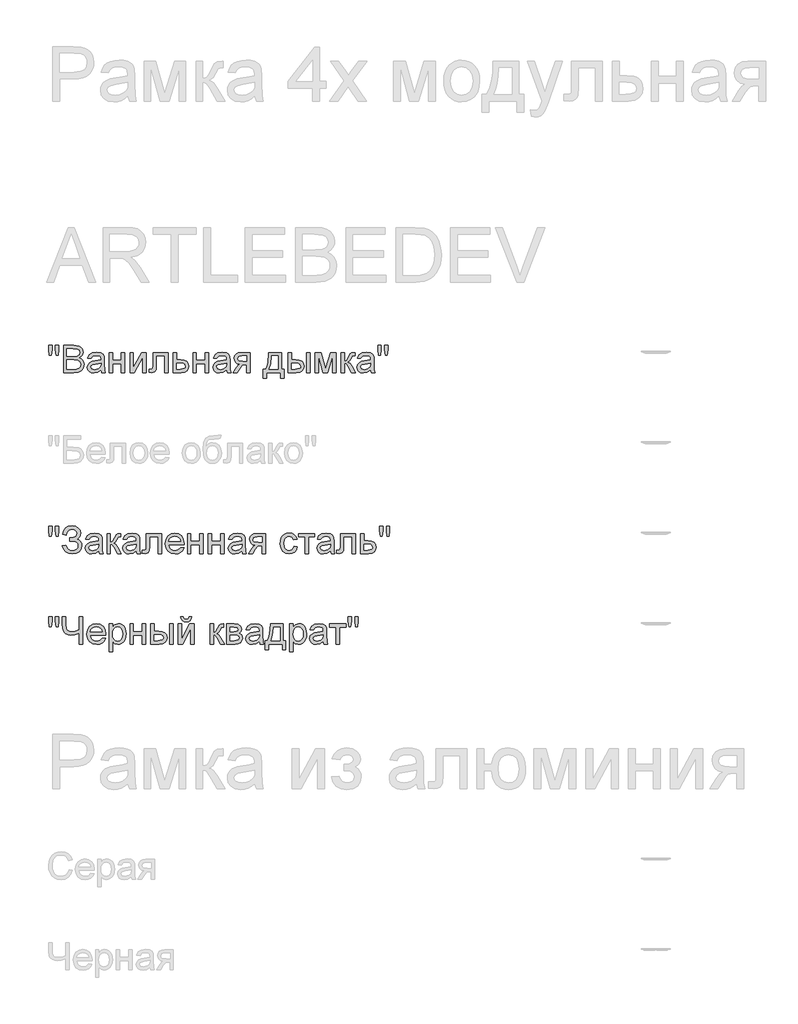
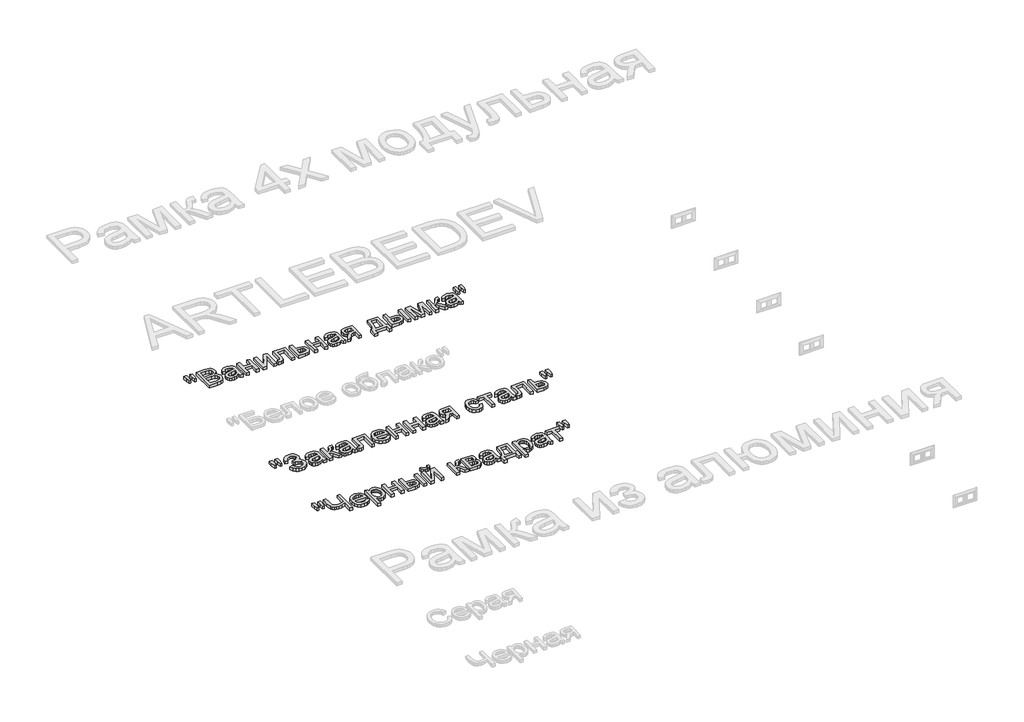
# One storey, part 119 of 168: 3 proxies.
"""IFC4 building model written with IfcOpenShell, lengths in millimetres."""

import ifcopenshell
import ifcopenshell.guid

model = None  # the IFC model being written
_history = None  # IfcOwnerHistory: only IFC2X3 demands one
_inside = {}  # id of a spatial element -> (the spatial element, [elements in it])
_under = {}  # id of a project, library or spatial element -> (it, [spatial elements below it])
_declared = {}  # id of a project -> (the project, [libraries it declares])
_typed = {}  # id of a type object -> (the type object, [elements of that type])
_made_of = {}  # id of a material, layer set ... -> (it, [elements and type objects made of it])


def new_model(schema):
    """Start an empty IFC model of exactly this schema.

    Asked for "IFC4X3", IfcOpenShell would pick the latest addendum, in which some entities
    have other attributes; the version numbers below select the first issue.
    IFC2X3 requires an IfcOwnerHistory on every rooted entity: one is made here for all.
    """
    global model, _history
    if schema == "IFC4X3":
        model = ifcopenshell.file(schema_version=(4, 3, 0, 0))
    else:
        model = ifcopenshell.file(schema=schema)
    _inside.clear()
    _under.clear()
    _declared.clear()
    _typed.clear()
    _made_of.clear()
    _history = None
    if model.schema == "IFC2X3":
        org = make("IfcOrganization", Name="unknown")
        user = make(
            "IfcPersonAndOrganization",
            ThePerson=make("IfcPerson", FamilyName="unknown"),
            TheOrganization=org,
        )
        app = make(
            "IfcApplication",
            ApplicationDeveloper=org,
            Version="unknown",
            ApplicationFullName="unknown",
            ApplicationIdentifier="unknown",
        )
        _history = make(
            "IfcOwnerHistory",
            OwningUser=user,
            OwningApplication=app,
            ChangeAction="ADDED",
            CreationDate=0,
        )
    return model


def make(cls, **values):
    """One entity of the class cls with the attributes given. An attribute that is None is left unset."""
    return model.create_entity(
        cls, **{name: value for name, value in values.items() if value is not None}
    )


def rooted(cls, **values):
    """An entity with a GlobalId (a new one), such as an element, a storey or a relation."""
    return make(cls, GlobalId=ifcopenshell.guid.new(), OwnerHistory=_history, **values)


def si_unit(unit_type, name, prefix=None):
    """IfcSIUnit, for example si_unit("LENGTHUNIT", "METRE", prefix="MILLI")."""
    return make("IfcSIUnit", UnitType=unit_type, Prefix=prefix, Name=name)


def assignment(units):
    """IfcUnitAssignment: the units of a project."""
    return None if units is None else make("IfcUnitAssignment", Units=units)


def point(xyz):
    """IfcCartesianPoint."""
    return None if xyz is None else make("IfcCartesianPoint", Coordinates=xyz)


def direction(xyz):
    """IfcDirection."""
    return None if xyz is None else make("IfcDirection", DirectionRatios=xyz)


def frame(location, z_axis=None, x_axis=None):
    """IfcAxis2Placement3D, a coordinate frame: its origin and axes. An axis left out is left unset."""
    return make(
        "IfcAxis2Placement3D",
        Location=point(location),
        Axis=direction(z_axis),
        RefDirection=direction(x_axis),
    )


def origin():
    """The frame at (0, 0, 0) with its axes left unset."""
    return frame((0.0, 0.0, 0.0))


def origin_with_axes():
    """The frame at (0, 0, 0) with the z axis (0, 0, 1) and the x axis (1, 0, 0) written out."""
    return frame((0.0, 0.0, 0.0), z_axis=(0.0, 0.0, 1.0), x_axis=(1.0, 0.0, 0.0))


def place(relative_to, where):
    """IfcLocalPlacement: puts the frame where relative to a parent placement (None: the world)."""
    return make(
        "IfcLocalPlacement", PlacementRelTo=relative_to, RelativePlacement=where
    )


def context(
    kind, dimensions, precision=None, world=None, true_north=None, identifier=None
):
    """IfcGeometricRepresentationContext, for example the 3D "Model" context."""
    return make(
        "IfcGeometricRepresentationContext",
        ContextIdentifier=identifier,
        ContextType=kind,
        CoordinateSpaceDimension=dimensions,
        Precision=precision,
        WorldCoordinateSystem=world,
        TrueNorth=true_north,
    )


def project(units=None, contexts=None):
    """IfcProject with its units and contexts."""
    return rooted(
        "IfcProject",
        Name="project",
        RepresentationContexts=contexts,
        UnitsInContext=assignment(units),
    )


def spatial(cls, under=None, at=None, **own):
    """A site, building, storey or space (cls), placed at a placement, below another one or the project."""
    s = rooted(cls, ObjectPlacement=at, **own)
    if under is not None:
        _under.setdefault(under.id(), (under, []))[1].append(s)
    return s


def polyline(points):
    """IfcPolyline through the points."""
    return make("IfcPolyline", Points=[point(p) for p in points])


def outline(outer, holes=None, kind="AREA"):
    """IfcArbitraryClosedProfileDef: a profile drawn as a closed curve; with holes, ...WithVoids."""
    if holes is None:
        return make("IfcArbitraryClosedProfileDef", ProfileType=kind, OuterCurve=outer)
    return make(
        "IfcArbitraryProfileDefWithVoids",
        ProfileType=kind,
        OuterCurve=outer,
        InnerCurves=holes,
    )


def extrude(swept, where, along, depth):
    """IfcExtrudedAreaSolid: the profile swept, set in the frame where, extruded along a direction by depth."""
    return make(
        "IfcExtrudedAreaSolid",
        SweptArea=swept,
        Position=where,
        ExtrudedDirection=direction(along),
        Depth=depth,
    )


def shape(context_of_items, identifier, shape_type, items):
    """IfcShapeRepresentation: the items that make up one representation, for example the "Body"."""
    return make(
        "IfcShapeRepresentation",
        ContextOfItems=context_of_items,
        RepresentationIdentifier=identifier,
        RepresentationType=shape_type,
        Items=items,
    )


def made_of(thing, what):
    """Note that an element or type object is made of a material, layer set ...; save() writes the relation."""
    if what is not None:
        _made_of.setdefault(what.id(), (what, []))[1].append(thing)
    return thing


def element(
    cls,
    number,
    at=None,
    inside=None,
    cuts=None,
    type_object=None,
    material=None,
    context=None,
    identifier="Body",
    shape_type=None,
    held_by="IfcProductDefinitionShape",
    body=None,
    shapes=None,
    **own,
):
    """One element of the class cls, such as IfcWall. Its Tag is "e" and its number.

    at: its placement. inside: the storey or other place that contains it. cuts: it is an
    opening in that element (IfcRelVoidsElement). A single representation is given by context,
    identifier, shape_type and body (its items); several are given by shapes. held_by: the class
    of the entity that holds the representations. save() writes the other relations.
    """
    e = rooted(cls, Tag="e%d" % number, ObjectPlacement=at, **own)
    if body is not None:
        shapes = [shape(context, identifier, shape_type, body)]
    if shapes is not None:
        e.Representation = make(held_by, Representations=shapes)
    if inside is not None:
        _inside.setdefault(inside.id(), (inside, []))[1].append(e)
    if cuts is not None:
        rooted(
            "IfcRelVoidsElement", RelatingBuildingElement=cuts, RelatedOpeningElement=e
        )
    if type_object is not None:
        _typed.setdefault(type_object.id(), (type_object, []))[1].append(e)
    return made_of(e, material)


def aggregate(whole, parts):
    """IfcRelAggregates: a whole, such as a stair, and the parts it consists of."""
    return rooted("IfcRelAggregates", RelatingObject=whole, RelatedObjects=parts)


def save(model, path):
    """Write the relations noted so far, then the file.

    IfcRelAggregates (storeys below a building ...), IfcRelContainedInSpatialStructure (elements
    in a storey), IfcRelDefinesByType, IfcRelAssociatesMaterial and IfcRelDeclares: one each for
    every whole, place, type object, material and project.
    """
    for whole, parts in _under.values():
        aggregate(whole, parts)
    for where, things in _inside.values():
        rooted(
            "IfcRelContainedInSpatialStructure",
            RelatedElements=things,
            RelatingStructure=where,
        )
    for kind, things in _typed.values():
        rooted("IfcRelDefinesByType", RelatedObjects=things, RelatingType=kind)
    for what, things in _made_of.values():
        rooted("IfcRelAssociatesMaterial", RelatedObjects=things, RelatingMaterial=what)
    for by, libraries in _declared.values():
        rooted("IfcRelDeclares", RelatingContext=by, RelatedDefinitions=libraries)
    model.write(path)


model = new_model("IFC4")

# Units and contexts
model_context = context("Model", 3, world=origin())
ifc_project = project(units=[si_unit("LENGTHUNIT", "METRE", prefix="MILLI")], contexts=[model_context])

# Site, building, storey
site = spatial("IfcSite", under=ifc_project)
building = spatial("IfcBuilding", under=site)
storey = spatial("IfcBuildingStorey", under=building, Name="Этаж 01", Elevation=0.0)

# Proxies
placement = place(None, origin())
element("IfcBuildingElementProxy", 1, Name="150", ObjectType="150", at=placement, inside=storey, context=model_context, shape_type="SweptSolid", body=[
    extrude(outline(polyline([(40280.1485789, -6451.873446), (40275.550054, -6422.7739802), (40275.550054, -6397.7212163), (40294.3856121, -6397.7212163), (40294.3856121, -6422.7739802), (40290.2653338, -6451.873446), (40280.1485789, -6451.873446)])), origin_with_axes(), (0.0, 0.0, 1.0), 20.0),
    extrude(outline(polyline([(40317.7093306, -6451.873446), (40313.2211703, -6422.7739802), (40313.2211703, -6397.7212163), (40332.0567284, -6397.7212163), (40332.0567284, -6422.7739802), (40327.6421445, -6451.873446), (40317.7093306, -6451.873446)])), origin_with_axes(), (0.0, 0.0, 1.0), 20.0),
    extrude(outline(polyline([(40357.9556209, -6548.4056816), (40357.9556209, -6397.7212163), (40415.4555767, -6397.7212163), (40443.6169435, -6402.1541944), (40453.0807078, -6407.7781904), (40460.2452096, -6415.7842223), (40466.2600803, -6435.0612389), (40461.2017028, -6452.6643923), (40445.9162059, -6466.0001146), (40456.5893823, -6471.5735269), (40464.4758526, -6480.0532069), (40469.3456905, -6490.8781346), (40470.9689698, -6503.48729), (40466.5359918, -6523.7391938), (40455.5547142, -6538.160168), (40439.1655713, -6545.8121135), (40415.0141183, -6548.4056816), (40357.9556209, -6548.4056816)]), holes=[polyline([(40376.791179, -6458.9367803), (40411.1881456, -6458.9367803), (40431.2745025, -6457.3180996), (40443.3594261, -6450.3467358), (40447.4245221, -6438.0778712), (40443.6353376, -6425.7906126), (40432.7828187, -6418.5249432), (40408.5761834, -6416.5567745), (40376.791179, -6416.5567745), (40376.791179, -6458.9367803)]), polyline([(40376.791179, -6529.5701234), (40415.4187885, -6529.5701234), (40429.3983043, -6528.8343594), (40441.2257105, -6524.7324752), (40449.061597, -6516.3631598), (40452.1334117, -6503.671231), (40448.5281681, -6489.0295275), (40436.8479148, -6480.2923302), (40413.5793786, -6477.7723385), (40376.791179, -6477.7723385), (40376.791179, -6529.5701234)])]), origin_with_axes(), (0.0, 0.0, 1.0), 20.0),
    extrude(outline(polyline([(40565.1467606, -6534.279013), (40546.8814195, -6547.0445182), (40526.7030921, -6550.7601263), (40510.9623412, -6548.5252432), (40499.3510657, -6541.8205939), (40492.1911624, -6531.6394596), (40489.804528, -6518.975122), (40493.4097715, -6504.0759012), (40502.8827329, -6493.2601705), (40516.0713024, -6487.079753), (40532.3684748, -6484.2470616), (40565.036396, -6477.7723385), (40565.1467606, -6473.5784838), (40563.8499765, -6465.1723802), (40559.9596244, -6459.6725443), (40551.2592153, -6455.5890542), (40539.1375035, -6454.2278908), (40520.0812162, -6457.8515285), (40510.9945309, -6470.7090042), (40492.1589727, -6468.3545594), (40500.3075589, -6449.9604597), (40516.7150959, -6439.1815172), (40541.5655247, -6435.3923327), (40564.3926025, -6438.7400588), (40577.2868664, -6447.1461624), (40583.0626137, -6459.9300617), (40583.9823187, -6476.4111751), (40583.9823187, -6499.8452582), (40584.9388119, -6532.5683617), (40588.6912083, -6548.4056816), (40569.8556501, -6548.4056816), (40565.1467606, -6534.279013)]), holes=[polyline([(40565.1467606, -6496.6078966), (40534.7597078, -6502.383644), (40518.5545059, -6505.4370645), (40511.2152601, -6510.4034715), (40508.6400861, -6517.6507468), (40514.2502865, -6527.841078), (40530.7130058, -6531.9245682), (40549.7692932, -6527.4180137), (40562.0565518, -6516.5103126), (40565.036396, -6501.9421856), (40565.1467606, -6496.6078966)])]), origin_with_axes(), (0.0, 0.0, 1.0), 20.0),
    extrude(outline(polyline([(40609.8812112, -6437.7467774), (40628.7167693, -6437.7467774), (40628.7167693, -6480.1267833), (40678.1601095, -6480.1267833), (40678.1601095, -6437.7467774), (40696.9956676, -6437.7467774), (40696.9956676, -6548.4056816), (40678.1601095, -6548.4056816), (40678.1601095, -6498.9623414), (40628.7167693, -6498.9623414), (40628.7167693, -6548.4056816), (40609.8812112, -6548.4056816), (40609.8812112, -6437.7467774)])), origin_with_axes(), (0.0, 0.0, 1.0), 20.0),
    extrude(outline(polyline([(40725.2490049, -6437.7467774), (40744.084563, -6437.7467774), (40744.084563, -6522.1389071), (40790.364118, -6437.7467774), (40814.7179061, -6437.7467774), (40814.7179061, -6548.4056816), (40795.8823479, -6548.4056816), (40795.8823479, -6464.5285867), (40749.8970985, -6548.4056816), (40725.2490049, -6548.4056816), (40725.2490049, -6437.7467774)])), origin_with_axes(), (0.0, 0.0, 1.0), 20.0),
    extrude(outline(polyline([(40852.3890224, -6437.7467774), (40937.1490341, -6437.7467774), (40937.1490341, -6548.295317), (40918.3134759, -6548.295317), (40918.3134759, -6456.5823356), (40871.2245806, -6456.5823356), (40871.2245806, -6509.3734019), (40869.9553877, -6533.72719), (40862.9840239, -6544.0094917), (40846.5029105, -6548.4056816), (40831.1990195, -6547.4491884), (40831.1990195, -6529.5701234), (40839.6235172, -6529.5701234), (40848.1399854, -6528.4112951), (40851.5428938, -6524.7324752), (40852.3890224, -6508.3065441), (40852.3890224, -6437.7467774)])), origin_with_axes(), (0.0, 0.0, 1.0), 20.0),
    extrude(outline(polyline([(40965.4023713, -6437.7467774), (40984.2379295, -6437.7467774), (40984.2379295, -6477.7723385), (41005.9429672, -6477.7723385), (41024.7601312, -6480.1313818), (41038.6844648, -6487.2085117), (41047.2929034, -6498.433511), (41050.162383, -6513.2361628), (41047.7205663, -6526.7144394), (41040.395116, -6538.0865916), (41027.6985887, -6545.8259091), (41009.1435405, -6548.4056816), (40965.4023713, -6548.4056816), (40965.4023713, -6437.7467774)]), holes=[polyline([(40984.2379295, -6529.5701234), (41001.8226888, -6529.5701234), (41024.539402, -6525.615392), (41029.6299692, -6520.552416), (41031.3268249, -6513.272951), (41026.3052356, -6501.6846682), (41018.2348244, -6497.8770895), (41004.066769, -6496.6078966), (40984.2379295, -6496.6078966), (40984.2379295, -6529.5701234)])]), origin_with_axes(), (0.0, 0.0, 1.0), 20.0),
    extrude(outline(polyline([(41073.7068307, -6437.7467774), (41092.5423889, -6437.7467774), (41092.5423889, -6480.1267833), (41141.985729, -6480.1267833), (41141.985729, -6437.7467774), (41160.8212872, -6437.7467774), (41160.8212872, -6548.4056816), (41141.985729, -6548.4056816), (41141.985729, -6498.9623414), (41092.5423889, -6498.9623414), (41092.5423889, -6548.4056816), (41073.7068307, -6548.4056816), (41073.7068307, -6437.7467774)])), origin_with_axes(), (0.0, 0.0, 1.0), 20.0),
    extrude(outline(polyline([(41259.7079675, -6534.279013), (41241.4426264, -6547.0445182), (41221.264299, -6550.7601263), (41205.5235481, -6548.5252432), (41193.9122726, -6541.8205939), (41186.7523693, -6531.6394596), (41184.3657349, -6518.975122), (41187.9709784, -6504.0759012), (41197.4439398, -6493.2601705), (41210.6325093, -6487.079753), (41226.9296817, -6484.2470616), (41259.5976029, -6477.7723385), (41259.7079675, -6473.5784838), (41258.4111834, -6465.1723802), (41254.5208313, -6459.6725443), (41245.8204221, -6455.5890542), (41233.6987104, -6454.2278908), (41214.6424231, -6457.8515285), (41205.5557378, -6470.7090042), (41186.7201796, -6468.3545594), (41194.8687658, -6449.9604597), (41211.2763028, -6439.1815172), (41236.1267316, -6435.3923327), (41258.9538094, -6438.7400588), (41271.8480733, -6447.1461624), (41277.6238206, -6459.9300617), (41278.5435256, -6476.4111751), (41278.5435256, -6499.8452582), (41279.5000188, -6532.5683617), (41283.2524152, -6548.4056816), (41264.416857, -6548.4056816), (41259.7079675, -6534.279013)]), holes=[polyline([(41259.7079675, -6496.6078966), (41229.3209147, -6502.383644), (41213.1157128, -6505.4370645), (41205.776467, -6510.4034715), (41203.201293, -6517.6507468), (41208.8114934, -6527.841078), (41225.2742127, -6531.9245682), (41244.3305001, -6527.4180137), (41256.6177587, -6516.5103126), (41259.5976029, -6501.9421856), (41259.7079675, -6496.6078966)])]), origin_with_axes(), (0.0, 0.0, 1.0), 20.0),
    extrude(outline(polyline([(41389.2024298, -6437.7467774), (41389.2024298, -6548.4056816), (41370.3668716, -6548.4056816), (41370.3668716, -6506.0256757), (41360.1029639, -6506.0256757), (41346.1234481, -6508.4169087), (41332.9900609, -6524.4933519), (41317.9804755, -6548.4056816), (41296.2018614, -6548.4056816), (41315.1109959, -6518.1657816), (41323.4619172, -6507.3132627), (41331.1506509, -6502.4940086), (41318.2747811, -6498.5484742), (41309.224884, -6491.0528785), (41303.872201, -6481.0832765), (41302.0879733, -6469.7157228), (41304.5251915, -6456.8214589), (41311.8368462, -6446.6127335), (41323.7654199, -6439.9632664), (41340.0533952, -6437.7467774), (41389.2024298, -6437.7467774)]), holes=[polyline([(41370.3668716, -6456.5823356), (41345.5348369, -6456.5823356), (41332.7095509, -6457.672186), (41325.4300859, -6460.9417372), (41320.9235315, -6471.1504626), (41322.583599, -6478.32876), (41327.5638015, -6483.3089625), (41351.0898551, -6487.1901176), (41370.3668716, -6487.1901176), (41370.3668716, -6456.5823356)])]), origin_with_axes(), (0.0, 0.0, 1.0), 20.0),
    extrude(outline(polyline([(41492.7979996, -6437.7467774), (41563.4313427, -6437.7467774), (41563.4313427, -6529.5701234), (41577.5580113, -6529.5701234), (41577.5580113, -6579.0134636), (41558.7224531, -6579.0134636), (41558.7224531, -6548.4056816), (41481.0257758, -6548.4056816), (41481.0257758, -6579.0134636), (41462.1902176, -6579.0134636), (41462.1902176, -6529.5701234), (41473.9624415, -6529.5701234), (41482.5202964, -6514.105284), (41488.5121744, -6493.6464466), (41492.7979996, -6437.7467774)]), holes=[polyline([(41509.279113, -6456.5823356), (41504.864529, -6499.4957703), (41495.1524444, -6529.5701234), (41544.5957845, -6529.5701234), (41544.5957845, -6456.5823356), (41509.279113, -6456.5823356)])]), origin_with_axes(), (0.0, 0.0, 1.0), 20.0),
    extrude(outline(polyline([(41702.3435841, -6437.7467774), (41721.1791422, -6437.7467774), (41721.1791422, -6548.4056816), (41702.3435841, -6548.4056816), (41702.3435841, -6437.7467774)])), origin_with_axes(), (0.0, 0.0, 1.0), 20.0),
    extrude(outline(polyline([(41598.7480142, -6437.7467774), (41617.5835724, -6437.7467774), (41617.5835724, -6477.7723385), (41640.8705027, -6477.7723385), (41660.9982463, -6480.1313818), (41675.9112627, -6487.2085117), (41685.1405023, -6498.433511), (41688.2169154, -6513.2361628), (41685.637143, -6526.7144394), (41677.8978255, -6538.0865916), (41664.4931253, -6545.8259091), (41644.9172046, -6548.4056816), (41598.7480142, -6548.4056816), (41598.7480142, -6437.7467774)]), holes=[polyline([(41617.5835724, -6529.5701234), (41636.9341653, -6529.5701234), (41661.9133528, -6525.615392), (41667.5143562, -6520.552416), (41669.3813573, -6513.272951), (41663.8447333, -6501.6846682), (41654.9649816, -6497.8770895), (41639.3989747, -6496.6078966), (41617.5835724, -6496.6078966), (41617.5835724, -6529.5701234)])]), origin_with_axes(), (0.0, 0.0, 1.0), 20.0),
    extrude(outline(polyline([(41749.4324794, -6437.7467774), (41781.8428832, -6437.7467774), (41806.8220707, -6526.3327619), (41833.7510327, -6437.7467774), (41864.8002731, -6437.7467774), (41864.8002731, -6548.4056816), (41845.964715, -6548.4056816), (41845.964715, -6459.3046623), (41818.8886001, -6548.4056816), (41794.1669301, -6548.4056816), (41768.2680376, -6455.0372312), (41768.2680376, -6548.4056816), (41749.4324794, -6548.4056816), (41749.4324794, -6437.7467774)])), origin_with_axes(), (0.0, 0.0, 1.0), 20.0),
    extrude(outline(polyline([(41893.0536104, -6437.7467774), (41911.8891685, -6437.7467774), (41911.8891685, -6484.8356728), (41924.5075209, -6481.4511584), (41934.845005, -6461.7326835), (41943.4350496, -6444.7181412), (41951.0134187, -6439.1815172), (41964.7905994, -6437.7467774), (41968.395843, -6437.7467774), (41968.395843, -6456.6927002), (41963.3190714, -6456.5823356), (41954.1220216, -6458.5688983), (41947.6472984, -6470.9665216), (41940.0505352, -6484.3758203), (41929.4003515, -6490.9425139), (41941.2829399, -6498.2725627), (41952.9447992, -6513.7144094), (41973.1047325, -6548.4056816), (41951.6940004, -6548.4056816), (41931.9387373, -6514.4501734), (41922.0059234, -6500.0843815), (41911.8891685, -6496.6078966), (41911.8891685, -6548.4056816), (41893.0536104, -6548.4056816), (41893.0536104, -6437.7467774)])), origin_with_axes(), (0.0, 0.0, 1.0), 20.0),
    extrude(outline(polyline([(42055.5102994, -6534.279013), (42037.2449584, -6547.0445182), (42017.0666309, -6550.7601263), (42001.3258801, -6548.5252432), (41989.7146046, -6541.8205939), (41982.5547013, -6531.6394596), (41980.1680668, -6518.975122), (41983.7733104, -6504.0759012), (41993.2462717, -6493.2601705), (42006.4348413, -6487.079753), (42022.7320137, -6484.2470616), (42055.3999348, -6477.7723385), (42055.5102994, -6473.5784838), (42054.2135154, -6465.1723802), (42050.3231633, -6459.6725443), (42041.6227541, -6455.5890542), (42029.5010424, -6454.2278908), (42010.444755, -6457.8515285), (42001.3580697, -6470.7090042), (41982.5225116, -6468.3545594), (41990.6710978, -6449.9604597), (42007.0786348, -6439.1815172), (42031.9290635, -6435.3923327), (42054.7561413, -6438.7400588), (42067.6504053, -6447.1461624), (42073.4261526, -6459.9300617), (42074.3458576, -6476.4111751), (42074.3458576, -6499.8452582), (42075.3023508, -6532.5683617), (42079.0547471, -6548.4056816), (42060.219189, -6548.4056816), (42055.5102994, -6534.279013)]), holes=[polyline([(42055.5102994, -6496.6078966), (42025.1232466, -6502.383644), (42008.9180447, -6505.4370645), (42001.5787989, -6510.4034715), (41999.003625, -6517.6507468), (42004.6138254, -6527.841078), (42021.0765447, -6531.9245682), (42040.132832, -6527.4180137), (42052.4200907, -6516.5103126), (42055.3999348, -6501.9421856), (42055.5102994, -6496.6078966)])]), origin_with_axes(), (0.0, 0.0, 1.0), 20.0),
    extrude(outline(polyline([(42100.1343854, -6451.873446), (42095.5358605, -6422.7739802), (42095.5358605, -6397.7212163), (42114.3714187, -6397.7212163), (42114.3714187, -6422.7739802), (42110.2511403, -6451.873446), (42100.1343854, -6451.873446)])), origin_with_axes(), (0.0, 0.0, 1.0), 20.0),
    extrude(outline(polyline([(42137.6951372, -6451.873446), (42133.2069768, -6422.7739802), (42133.2069768, -6397.7212163), (42152.042535, -6397.7212163), (42152.042535, -6422.7739802), (42147.627951, -6451.873446), (42137.6951372, -6451.873446)])), origin_with_axes(), (0.0, 0.0, 1.0), 20.0),
])
element("IfcBuildingElementProxy", 2, Name="150", ObjectType="150", at=placement, inside=storey, context=model_context, shape_type="SweptSolid", body=[
    extrude(outline(polyline([(40280.1485789, -7451.873446), (40275.550054, -7422.7739802), (40275.550054, -7397.7212163), (40294.3856121, -7397.7212163), (40294.3856121, -7422.7739802), (40290.2653338, -7451.873446), (40280.1485789, -7451.873446)])), origin_with_axes(), (0.0, 0.0, 1.0), 20.0),
    extrude(outline(polyline([(40317.7093306, -7451.873446), (40313.2211703, -7422.7739802), (40313.2211703, -7397.7212163), (40332.0567284, -7397.7212163), (40332.0567284, -7422.7739802), (40327.6421445, -7451.873446), (40317.7093306, -7451.873446)])), origin_with_axes(), (0.0, 0.0, 1.0), 20.0),
    extrude(outline(polyline([(40350.8922866, -7506.0256757), (40369.7278447, -7501.3167862), (40381.2977335, -7521.7158428), (40392.2284273, -7529.3723868), (40406.2217387, -7531.9245682), (40420.398991, -7530.0069833), (40431.2193202, -7524.2542286), (40438.0757209, -7515.7883442), (40440.3611878, -7505.7313701), (40437.8641888, -7495.1961495), (40430.3731916, -7487.0613589), (40418.5779752, -7481.8604272), (40403.1683181, -7480.1267833), (40393.2722924, -7480.1267833), (40393.2722924, -7461.2912251), (40414.591054, -7459.7645148), (40427.6324708, -7451.9654165), (40433.2978535, -7437.7099892), (40431.4124583, -7428.8394346), (40425.7562726, -7421.2104817), (40416.8811195, -7415.9543677), (40405.3388219, -7414.2023297), (40386.1169876, -7419.591801), (40375.117316, -7433.8840165), (40372.0822895, -7447.1645565), (40353.2467313, -7442.455667), (40359.0983543, -7421.8542752), (40369.7002536, -7407.1389954), (40385.0524291, -7398.3098275), (40405.1548809, -7395.3667716), (40424.5468605, -7398.4247907), (40439.4598769, -7407.5988479), (40448.965028, -7420.8655924), (40452.1334117, -7436.201673), (40447.2037929, -7454.8440931), (40432.4149367, -7468.7592296), (40442.8903765, -7473.5830823), (40451.5080123, -7481.7270699), (40457.2745625, -7492.4922168), (40459.196746, -7505.1795471), (40455.508729, -7523.0172254), (40444.444678, -7537.6819214), (40427.2921799, -7547.4905751), (40405.3388219, -7550.7601263), (40386.2365493, -7547.9642232), (40370.7947025, -7539.5765137), (40359.0132816, -7525.5969979), (40350.8922866, -7506.0256757)])), origin_with_axes(), (0.0, 0.0, 1.0), 20.0),
    extrude(outline(polyline([(40553.3745367, -7534.279013), (40535.1091957, -7547.0445182), (40514.9308682, -7550.7601263), (40499.1901174, -7548.5252432), (40487.5788419, -7541.8205939), (40480.4189386, -7531.6394596), (40478.0323041, -7518.975122), (40481.6375477, -7504.0759012), (40491.110509, -7493.2601705), (40504.2990786, -7487.079753), (40520.596251, -7484.2470616), (40553.2641721, -7477.7723385), (40553.3745367, -7473.5784838), (40552.0777527, -7465.1723802), (40548.1874006, -7459.6725443), (40539.4869914, -7455.5890542), (40527.3652797, -7454.2278908), (40508.3089923, -7457.8515285), (40499.222307, -7470.7090042), (40480.3867489, -7468.3545594), (40488.5353351, -7449.9604597), (40504.9428721, -7439.1815172), (40529.7933008, -7435.3923327), (40552.6203786, -7438.7400588), (40565.5146426, -7447.1461624), (40571.2903899, -7459.9300617), (40572.2100949, -7476.4111751), (40572.2100949, -7499.8452582), (40573.1665881, -7532.5683617), (40576.9189844, -7548.4056816), (40558.0834263, -7548.4056816), (40553.3745367, -7534.279013)]), holes=[polyline([(40553.3745367, -7496.6078966), (40522.9874839, -7502.383644), (40506.782282, -7505.4370645), (40499.4430362, -7510.4034715), (40496.8678623, -7517.6507468), (40502.4780627, -7527.841078), (40518.940782, -7531.9245682), (40537.9970693, -7527.4180137), (40550.284328, -7516.5103126), (40553.2641721, -7501.9421856), (40553.3745367, -7496.6078966)])]), origin_with_axes(), (0.0, 0.0, 1.0), 20.0),
    extrude(outline(polyline([(40598.1089873, -7437.7467774), (40616.9445455, -7437.7467774), (40616.9445455, -7484.8356728), (40629.5628979, -7481.4511584), (40639.900382, -7461.7326835), (40648.4904266, -7444.7181412), (40656.0687957, -7439.1815172), (40669.8459764, -7437.7467774), (40673.4512199, -7437.7467774), (40673.4512199, -7456.6927002), (40668.3744484, -7456.5823356), (40659.1773985, -7458.5688983), (40652.7026754, -7470.9665216), (40645.1059122, -7484.3758203), (40634.4557285, -7490.9425139), (40646.3383169, -7498.2725627), (40658.0001762, -7513.7144094), (40678.1601095, -7548.4056816), (40656.7493774, -7548.4056816), (40636.9941142, -7514.4501734), (40627.0613004, -7500.0843815), (40616.9445455, -7496.6078966), (40616.9445455, -7548.4056816), (40598.1089873, -7548.4056816), (40598.1089873, -7437.7467774)])), origin_with_axes(), (0.0, 0.0, 1.0), 20.0),
    extrude(outline(polyline([(40760.5656764, -7534.279013), (40742.3003353, -7547.0445182), (40722.1220079, -7550.7601263), (40706.381257, -7548.5252432), (40694.7699816, -7541.8205939), (40687.6100782, -7531.6394596), (40685.2234438, -7518.975122), (40688.8286873, -7504.0759012), (40698.3016487, -7493.2601705), (40711.4902183, -7487.079753), (40727.7873906, -7484.2470616), (40760.4553118, -7477.7723385), (40760.5656764, -7473.5784838), (40759.2688924, -7465.1723802), (40755.3785403, -7459.6725443), (40746.6781311, -7455.5890542), (40734.5564193, -7454.2278908), (40715.500132, -7457.8515285), (40706.4134467, -7470.7090042), (40687.5778886, -7468.3545594), (40695.7264748, -7449.9604597), (40712.1340117, -7439.1815172), (40736.9844405, -7435.3923327), (40759.8115183, -7438.7400588), (40772.7057822, -7447.1461624), (40778.4815296, -7459.9300617), (40779.4012346, -7476.4111751), (40779.4012346, -7499.8452582), (40780.3577277, -7532.5683617), (40784.1101241, -7548.4056816), (40765.2745659, -7548.4056816), (40760.5656764, -7534.279013)]), holes=[polyline([(40760.5656764, -7496.6078966), (40730.1786236, -7502.383644), (40713.9734217, -7505.4370645), (40706.6341759, -7510.4034715), (40704.0590019, -7517.6507468), (40709.6692024, -7527.841078), (40726.1319217, -7531.9245682), (40745.188209, -7527.4180137), (40757.4754676, -7516.5103126), (40760.4553118, -7501.9421856), (40760.5656764, -7496.6078966)])]), origin_with_axes(), (0.0, 0.0, 1.0), 20.0),
    extrude(outline(polyline([(40814.7179061, -7437.7467774), (40899.4779178, -7437.7467774), (40899.4779178, -7548.295317), (40880.6423596, -7548.295317), (40880.6423596, -7456.5823356), (40833.5534643, -7456.5823356), (40833.5534643, -7509.3734019), (40832.2842714, -7533.72719), (40825.3129076, -7544.0094917), (40808.8317942, -7548.4056816), (40793.5279032, -7547.4491884), (40793.5279032, -7529.5701234), (40801.9524009, -7529.5701234), (40810.4688691, -7528.4112951), (40813.8717775, -7524.7324752), (40814.7179061, -7508.3065441), (40814.7179061, -7437.7467774)])), origin_with_axes(), (0.0, 0.0, 1.0), 20.0),
    extrude(outline(polyline([(41005.2072032, -7515.4434548), (41023.6748794, -7517.7978996), (41017.0208138, -7531.713036), (41006.4028197, -7542.1148995), (40992.0600204, -7548.5988196), (40974.2315392, -7550.7601263), (40952.1310283, -7547.0307226), (40935.1256831, -7535.8425114), (40924.2823613, -7517.9220597), (40920.6679207, -7493.9959345), (40924.3191495, -7469.2650674), (40935.2728359, -7450.7698), (40952.0482549, -7439.2366995), (40973.1646814, -7435.3923327), (40993.6235189, -7439.2275025), (41009.971275, -7450.7330118), (41020.6904367, -7469.191491), (41024.2634906, -7493.8855699), (41024.153126, -7498.9623414), (40939.5034789, -7498.9623414), (40942.763833, -7513.0614189), (40950.3376036, -7523.4264941), (40961.2682974, -7529.8000497), (40974.5994212, -7531.9245682), (40993.0670974, -7527.9882308), (41005.2072032, -7515.4434548)]), holes=[polyline([(40939.5034789, -7480.1267833), (41005.4279324, -7480.1267833), (41002.8803496, -7470.1755753), (40997.8863515, -7463.0570587), (40986.9050739, -7456.4351828), (40973.091105, -7454.2278908), (40960.3945777, -7455.9891259), (40949.8961452, -7461.272831), (40942.5982861, -7469.5087892), (40939.5034789, -7480.1267833)])]), origin_with_axes(), (0.0, 0.0, 1.0), 20.0),
    extrude(outline(polyline([(41043.0990487, -7437.7467774), (41061.9346069, -7437.7467774), (41061.9346069, -7480.1267833), (41111.377947, -7480.1267833), (41111.377947, -7437.7467774), (41130.2135052, -7437.7467774), (41130.2135052, -7548.4056816), (41111.377947, -7548.4056816), (41111.377947, -7498.9623414), (41061.9346069, -7498.9623414), (41061.9346069, -7548.4056816), (41043.0990487, -7548.4056816), (41043.0990487, -7437.7467774)])), origin_with_axes(), (0.0, 0.0, 1.0), 20.0),
    extrude(outline(polyline([(41158.4668424, -7437.7467774), (41177.3024005, -7437.7467774), (41177.3024005, -7480.1267833), (41226.7457407, -7480.1267833), (41226.7457407, -7437.7467774), (41245.5812988, -7437.7467774), (41245.5812988, -7548.4056816), (41226.7457407, -7548.4056816), (41226.7457407, -7498.9623414), (41177.3024005, -7498.9623414), (41177.3024005, -7548.4056816), (41158.4668424, -7548.4056816), (41158.4668424, -7437.7467774)])), origin_with_axes(), (0.0, 0.0, 1.0), 20.0),
    extrude(outline(polyline([(41344.4679792, -7534.279013), (41326.2026381, -7547.0445182), (41306.0243107, -7550.7601263), (41290.2835598, -7548.5252432), (41278.6722843, -7541.8205939), (41271.512381, -7531.6394596), (41269.1257465, -7518.975122), (41272.7309901, -7504.0759012), (41282.2039515, -7493.2601705), (41295.392521, -7487.079753), (41311.6896934, -7484.2470616), (41344.3576146, -7477.7723385), (41344.4679792, -7473.5784838), (41343.1711951, -7465.1723802), (41339.280843, -7459.6725443), (41330.5804338, -7455.5890542), (41318.4587221, -7454.2278908), (41299.4024347, -7457.8515285), (41290.3157495, -7470.7090042), (41271.4801913, -7468.3545594), (41279.6287775, -7449.9604597), (41296.0363145, -7439.1815172), (41320.8867433, -7435.3923327), (41343.7138211, -7438.7400588), (41356.608085, -7447.1461624), (41362.3838323, -7459.9300617), (41363.3035373, -7476.4111751), (41363.3035373, -7499.8452582), (41364.2600305, -7532.5683617), (41368.0124268, -7548.4056816), (41349.1768687, -7548.4056816), (41344.4679792, -7534.279013)]), holes=[polyline([(41344.4679792, -7496.6078966), (41314.0809264, -7502.383644), (41297.8757245, -7505.4370645), (41290.5364787, -7510.4034715), (41287.9613047, -7517.6507468), (41293.5715051, -7527.841078), (41310.0342244, -7531.9245682), (41329.0905118, -7527.4180137), (41341.3777704, -7516.5103126), (41344.3576146, -7501.9421856), (41344.4679792, -7496.6078966)])]), origin_with_axes(), (0.0, 0.0, 1.0), 20.0),
    extrude(outline(polyline([(41473.9624415, -7437.7467774), (41473.9624415, -7548.4056816), (41455.1268833, -7548.4056816), (41455.1268833, -7506.0256757), (41444.8629756, -7506.0256757), (41430.8834598, -7508.4169087), (41417.7500726, -7524.4933519), (41402.7404872, -7548.4056816), (41380.9618731, -7548.4056816), (41399.8710076, -7518.1657816), (41408.2219289, -7507.3132627), (41415.9106626, -7502.4940086), (41403.0347928, -7498.5484742), (41393.9848957, -7491.0528785), (41388.6322127, -7481.0832765), (41386.847985, -7469.7157228), (41389.2852032, -7456.8214589), (41396.5968579, -7446.6127335), (41408.5254316, -7439.9632664), (41424.8134069, -7437.7467774), (41473.9624415, -7437.7467774)]), holes=[polyline([(41455.1268833, -7456.5823356), (41430.2948486, -7456.5823356), (41417.4695626, -7457.672186), (41410.1900976, -7460.9417372), (41405.6835431, -7471.1504626), (41407.3436107, -7478.32876), (41412.3238132, -7483.3089625), (41435.8498668, -7487.1901176), (41455.1268833, -7487.1901176), (41455.1268833, -7456.5823356)])]), origin_with_axes(), (0.0, 0.0, 1.0), 20.0),
    extrude(outline(polyline([(41631.710241, -7508.3801205), (41650.5457991, -7510.7345653), (41645.2942837, -7527.4869916), (41635.4258491, -7540.1467308), (41621.8693976, -7548.1067774), (41605.5538311, -7550.7601263), (41585.518058, -7547.0583138), (41569.8508835, -7535.952876), (41559.7387272, -7517.9312568), (41556.3680084, -7493.4808997), (41557.8073467, -7476.7192763), (41562.1253616, -7462.192536), (41569.391031, -7450.4616989), (41579.6733328, -7442.087785), (41591.974387, -7437.0661957), (41605.2963137, -7435.3923327), (41621.2118085, -7437.6915951), (41633.9359271, -7444.5893825), (41643.0639991, -7455.7178129), (41648.1913544, -7470.7090042), (41629.3557962, -7473.063449), (41620.6185988, -7458.9551744), (41605.4434665, -7454.2278908), (41593.271171, -7456.5547444), (41583.6096701, -7463.5353053), (41577.3050924, -7475.5466524), (41575.2035665, -7492.9658649), (41577.2591072, -7510.6196021), (41583.4257291, -7522.672336), (41592.9124861, -7529.6115101), (41604.9284317, -7531.9245682), (41614.6819031, -7530.4806314), (41622.678738, -7526.1488209), (41628.4958721, -7518.8187721), (41631.710241, -7508.3801205)])), origin_with_axes(), (0.0, 0.0, 1.0), 20.0),
    extrude(outline(polyline([(41657.6091334, -7437.7467774), (41747.0780347, -7437.7467774), (41747.0780347, -7456.5823356), (41711.7613631, -7456.5823356), (41711.7613631, -7548.4056816), (41692.925805, -7548.4056816), (41692.925805, -7456.5823356), (41657.6091334, -7456.5823356), (41657.6091334, -7437.7467774)])), origin_with_axes(), (0.0, 0.0, 1.0), 20.0),
    extrude(outline(polyline([(41834.1924911, -7534.279013), (41815.9271501, -7547.0445182), (41795.7488226, -7550.7601263), (41780.0080718, -7548.5252432), (41768.3967963, -7541.8205939), (41761.236893, -7531.6394596), (41758.8502585, -7518.975122), (41762.4555021, -7504.0759012), (41771.9284634, -7493.2601705), (41785.117033, -7487.079753), (41801.4142054, -7484.2470616), (41834.0821265, -7477.7723385), (41834.1924911, -7473.5784838), (41832.8957071, -7465.1723802), (41829.005355, -7459.6725443), (41820.3049458, -7455.5890542), (41808.1832341, -7454.2278908), (41789.1269467, -7457.8515285), (41780.0402614, -7470.7090042), (41761.2047033, -7468.3545594), (41769.3532895, -7449.9604597), (41785.7608265, -7439.1815172), (41810.6112552, -7435.3923327), (41833.438333, -7438.7400588), (41846.332597, -7447.1461624), (41852.1083443, -7459.9300617), (41853.0280493, -7476.4111751), (41853.0280493, -7499.8452582), (41853.9845425, -7532.5683617), (41857.7369388, -7548.4056816), (41838.9013807, -7548.4056816), (41834.1924911, -7534.279013)]), holes=[polyline([(41834.1924911, -7496.6078966), (41803.8054383, -7502.383644), (41787.6002364, -7505.4370645), (41780.2609906, -7510.4034715), (41777.6858167, -7517.6507468), (41783.2960171, -7527.841078), (41799.7587364, -7531.9245682), (41818.8150237, -7527.4180137), (41831.1022824, -7516.5103126), (41834.0821265, -7501.9421856), (41834.1924911, -7496.6078966)])]), origin_with_axes(), (0.0, 0.0, 1.0), 20.0),
    extrude(outline(polyline([(41888.3447208, -7437.7467774), (41973.1047325, -7437.7467774), (41973.1047325, -7548.295317), (41954.2691744, -7548.295317), (41954.2691744, -7456.5823356), (41907.180279, -7456.5823356), (41907.180279, -7509.3734019), (41905.9110861, -7533.72719), (41898.9397223, -7544.0094917), (41882.4586089, -7548.4056816), (41867.1547179, -7547.4491884), (41867.1547179, -7529.5701234), (41875.5792156, -7529.5701234), (41884.0956838, -7528.4112951), (41887.4985922, -7524.7324752), (41888.3447208, -7508.3065441), (41888.3447208, -7437.7467774)])), origin_with_axes(), (0.0, 0.0, 1.0), 20.0),
    extrude(outline(polyline([(42001.3580697, -7437.7467774), (42020.1936279, -7437.7467774), (42020.1936279, -7477.7723385), (42041.8986656, -7477.7723385), (42060.7158297, -7480.1313818), (42074.6401632, -7487.2085117), (42083.2486019, -7498.433511), (42086.1180814, -7513.2361628), (42083.6762647, -7526.7144394), (42076.3508145, -7538.0865916), (42063.6542871, -7545.8259091), (42045.099239, -7548.4056816), (42001.3580697, -7548.4056816), (42001.3580697, -7437.7467774)]), holes=[polyline([(42020.1936279, -7529.5701234), (42037.7783873, -7529.5701234), (42060.4951005, -7525.615392), (42065.5856676, -7520.552416), (42067.2825233, -7513.272951), (42062.260934, -7501.6846682), (42054.1905228, -7497.8770895), (42040.0224674, -7496.6078966), (42020.1936279, -7496.6078966), (42020.1936279, -7529.5701234)])]), origin_with_axes(), (0.0, 0.0, 1.0), 20.0),
    extrude(outline(polyline([(42109.5521645, -7451.873446), (42104.9536396, -7422.7739802), (42104.9536396, -7397.7212163), (42123.7891977, -7397.7212163), (42123.7891977, -7422.7739802), (42119.6689194, -7451.873446), (42109.5521645, -7451.873446)])), origin_with_axes(), (0.0, 0.0, 1.0), 20.0),
    extrude(outline(polyline([(42147.1129162, -7451.873446), (42142.6247559, -7422.7739802), (42142.6247559, -7397.7212163), (42161.460314, -7397.7212163), (42161.460314, -7422.7739802), (42157.0457301, -7451.873446), (42147.1129162, -7451.873446)])), origin_with_axes(), (0.0, 0.0, 1.0), 20.0),
])
element("IfcBuildingElementProxy", 3, Name="150", ObjectType="150", at=placement, inside=storey, context=model_context, shape_type="SweptSolid", body=[
    extrude(outline(polyline([(40280.1485789, -7951.873446), (40275.550054, -7922.7739802), (40275.550054, -7897.7212163), (40294.3856121, -7897.7212163), (40294.3856121, -7922.7739802), (40290.2653338, -7951.873446), (40280.1485789, -7951.873446)])), origin_with_axes(), (0.0, 0.0, 1.0), 20.0),
    extrude(outline(polyline([(40317.7093306, -7951.873446), (40313.2211703, -7922.7739802), (40313.2211703, -7897.7212163), (40332.0567284, -7897.7212163), (40332.0567284, -7922.7739802), (40327.6421445, -7951.873446), (40317.7093306, -7951.873446)])), origin_with_axes(), (0.0, 0.0, 1.0), 20.0),
    extrude(outline(polyline([(40463.9056355, -8048.4056816), (40445.0700773, -8048.4056816), (40445.0700773, -7988.0730344), (40420.0908899, -7996.2400147), (40398.4226404, -7998.9623414), (40383.7395502, -7997.0999388), (40370.886673, -7991.512731), (40360.926268, -7983.0606422), (40354.9205944, -7972.6035965), (40350.8922866, -7942.6028198), (40350.8922866, -7897.7212163), (40369.7278447, -7897.7212163), (40369.7278447, -7940.064434), (40371.990319, -7960.4313009), (40378.7777418, -7972.3828673), (40388.7381468, -7978.1908043), (40400.5195677, -7980.1267833), (40422.2521966, -7977.7907326), (40445.0700773, -7970.7825806), (40445.0700773, -7897.7212163), (40463.9056355, -7897.7212163), (40463.9056355, -8048.4056816)])), origin_with_axes(), (0.0, 0.0, 1.0), 20.0),
    extrude(outline(polyline([(40571.9893657, -8015.4434548), (40590.4570418, -8017.7978996), (40583.8029763, -8031.713036), (40573.1849822, -8042.1148995), (40558.8421829, -8048.5988196), (40541.0137017, -8050.7601263), (40518.9131908, -8047.0307226), (40501.9078456, -8035.8425114), (40491.0645238, -8017.9220597), (40487.4500832, -7993.9959345), (40491.101312, -7969.2650674), (40502.0549984, -7950.7698), (40518.8304174, -7939.2366995), (40539.9468439, -7935.3923327), (40560.4056814, -7939.2275025), (40576.7534375, -7950.7330118), (40587.4725992, -7969.191491), (40591.045653, -7993.8855699), (40590.9352884, -7998.9623414), (40506.2856413, -7998.9623414), (40509.5459955, -8013.0614189), (40517.1197661, -8023.4264941), (40528.0504599, -8029.8000497), (40541.3815837, -8031.9245682), (40559.8492598, -8027.9882308), (40571.9893657, -8015.4434548)]), holes=[polyline([(40506.2856413, -7980.1267833), (40572.2100949, -7980.1267833), (40569.6625121, -7970.1755753), (40564.668514, -7963.0570587), (40553.6872364, -7956.4351828), (40539.8732675, -7954.2278908), (40527.1767401, -7955.9891259), (40516.6783077, -7961.272831), (40509.3804486, -7969.5087892), (40506.2856413, -7980.1267833)])]), origin_with_axes(), (0.0, 0.0, 1.0), 20.0),
    extrude(outline(polyline([(40609.8812112, -8090.7856874), (40609.8812112, -7937.7467774), (40628.7167693, -7937.7467774), (40628.7167693, -7956.2144536), (40641.739792, -7940.5978629), (40659.3245513, -7935.3923327), (40672.0624654, -7937.2133485), (40683.2000928, -7942.6763962), (40692.268384, -7951.4503817), (40698.7982894, -7963.2042115), (40704.0590019, -7992.2301009), (40702.5736784, -8008.3387338), (40698.1177077, -8022.7459124), (40690.8336442, -8034.7204713), (40680.8640422, -8043.5312451), (40669.2527667, -8048.952906), (40657.043683, -8050.7601263), (40640.6545401, -8045.9224781), (40628.7167693, -8033.6904018), (40628.7167693, -8090.7856874), (40609.8812112, -8090.7856874)]), holes=[polyline([(40628.7167693, -7993.9591463), (40630.7539159, -8010.8449299), (40636.8653555, -8022.6539419), (40645.8830629, -8029.6069116), (40656.6390128, -8031.9245682), (40667.5697066, -8029.5241382), (40676.8173402, -8022.3228481), (40683.1219179, -8010.0815747), (40685.2234438, -7992.5611947), (40683.1725017, -7975.7673816), (40677.0196753, -7963.7928227), (40668.0157635, -7956.6191238), (40657.411565, -7954.2278908), (40646.7659797, -7956.7708751), (40637.4171785, -7964.399828), (40630.8918716, -7976.8756261), (40628.7167693, -7993.9591463)])]), origin_with_axes(), (0.0, 0.0, 1.0), 20.0),
    extrude(outline(polyline([(40725.2490049, -7937.7467774), (40744.084563, -7937.7467774), (40744.084563, -7980.1267833), (40793.5279032, -7980.1267833), (40793.5279032, -7937.7467774), (40812.3634613, -7937.7467774), (40812.3634613, -8048.4056816), (40793.5279032, -8048.4056816), (40793.5279032, -7998.9623414), (40744.084563, -7998.9623414), (40744.084563, -8048.4056816), (40725.2490049, -8048.4056816), (40725.2490049, -7937.7467774)])), origin_with_axes(), (0.0, 0.0, 1.0), 20.0),
    extrude(outline(polyline([(40944.2123684, -7937.7467774), (40963.0479266, -7937.7467774), (40963.0479266, -8048.4056816), (40944.2123684, -8048.4056816), (40944.2123684, -7937.7467774)])), origin_with_axes(), (0.0, 0.0, 1.0), 20.0),
    extrude(outline(polyline([(40840.6167986, -7937.7467774), (40859.4523567, -7937.7467774), (40859.4523567, -7977.7723385), (40882.739287, -7977.7723385), (40902.8670307, -7980.1313818), (40917.780047, -7987.2085117), (40927.0092866, -7998.433511), (40930.0856998, -8013.2361628), (40927.5059273, -8026.7144394), (40919.7666098, -8038.0865916), (40906.3619096, -8045.8259091), (40886.785989, -8048.4056816), (40840.6167986, -8048.4056816), (40840.6167986, -7937.7467774)]), holes=[polyline([(40859.4523567, -8029.5701234), (40878.8029497, -8029.5701234), (40903.7821371, -8025.615392), (40909.3831405, -8020.552416), (40911.2501416, -8013.272951), (40905.7135176, -8001.6846682), (40896.8337659, -7997.8770895), (40881.267759, -7996.6078966), (40859.4523567, -7996.6078966), (40859.4523567, -8029.5701234)])]), origin_with_axes(), (0.0, 0.0, 1.0), 20.0),
    extrude(outline(polyline([(40991.3012638, -7937.7467774), (41010.1368219, -7937.7467774), (41010.1368219, -8022.1389071), (41056.4163769, -7937.7467774), (41080.770165, -7937.7467774), (41080.770165, -8048.4056816), (41061.9346069, -8048.4056816), (41061.9346069, -7964.5285867), (41015.9493575, -8048.4056816), (40991.3012638, -8048.4056816), (40991.3012638, -7937.7467774)])), origin_with_axes(), (0.0, 0.0, 1.0), 20.0),
    extrude(outline(polyline([(41052.5168278, -7897.7212163), (41066.6434964, -7897.7212163), (41063.6038714, -7909.7831473), (41057.5016288, -7918.672096), (41048.6126801, -7924.1489392), (41037.2129368, -7925.9745536), (41024.8429047, -7924.1627347), (41015.2503817, -7918.7272783), (41008.6928851, -7909.8521251), (41005.4279324, -7897.7212163), (41019.554601, -7897.7212163), (41024.8521017, -7908.3346119), (41035.5206796, -7911.847885), (41047.219327, -7908.4449765), (41052.5168278, -7897.7212163)])), origin_with_axes(), (0.0, 0.0, 1.0), 20.0),
    extrude(outline(polyline([(41167.8846215, -7937.7467774), (41186.7201796, -7937.7467774), (41186.7201796, -7984.8356728), (41199.3385321, -7981.4511584), (41209.6760161, -7961.7326835), (41218.2660607, -7944.7181412), (41225.8444298, -7939.1815172), (41239.6216105, -7937.7467774), (41243.2268541, -7937.7467774), (41243.2268541, -7956.6927002), (41238.1500825, -7956.5823356), (41228.9530327, -7958.5688983), (41222.4783096, -7970.9665216), (41214.8815464, -7984.3758203), (41204.2313626, -7990.9425139), (41216.113951, -7998.2725627), (41227.7758103, -8013.7144094), (41247.9357436, -8048.4056816), (41226.5250115, -8048.4056816), (41206.7697484, -8014.4501734), (41196.8369345, -8000.0843815), (41186.7201796, -7996.6078966), (41186.7201796, -8048.4056816), (41167.8846215, -8048.4056816), (41167.8846215, -7937.7467774)])), origin_with_axes(), (0.0, 0.0, 1.0), 20.0),
    extrude(outline(polyline([(41259.7079675, -7937.7467774), (41301.2050565, -7937.7467774), (41323.9585579, -7940.2667691), (41336.7608514, -7949.5006072), (41342.1135344, -7965.5954445), (41338.8761728, -7978.6736494), (41329.1273, -7987.999458), (41341.7824406, -7998.2081833), (41346.8224239, -8015.9584896), (41343.6310476, -8030.3150845), (41336.0434815, -8040.4226423), (41324.0321343, -8046.4099217), (41307.569415, -8048.4056816), (41259.7079675, -8048.4056816), (41259.7079675, -7937.7467774)]), holes=[polyline([(41278.5435256, -7980.1267833), (41297.1583546, -7980.1267833), (41312.5174279, -7979.1702901), (41319.9854324, -7975.3443173), (41323.2779762, -7968.4281358), (41321.8340394, -7962.8087383), (41317.5022289, -7959.1942977), (41297.7469658, -7956.5823356), (41278.5435256, -7956.5823356), (41278.5435256, -7980.1267833)]), polyline([(41278.5435256, -8029.5701234), (41301.6465149, -8029.5701234), (41322.137542, -8026.167215), (41326.377382, -8021.5273033), (41327.9868658, -8014.4133852), (41324.7678983, -8005.345094), (41316.3801888, -8000.0659874), (41299.8071049, -7998.9623414), (41278.5435256, -7998.9623414), (41278.5435256, -8029.5701234)])]), origin_with_axes(), (0.0, 0.0, 1.0), 20.0),
    extrude(outline(polyline([(41441.0002147, -8034.279013), (41422.7348736, -8047.0445182), (41402.5565462, -8050.7601263), (41386.8157953, -8048.5252432), (41375.2045198, -8041.8205939), (41368.0446165, -8031.6394596), (41365.6579821, -8018.975122), (41369.2632256, -8004.0759012), (41378.736187, -7993.2601705), (41391.9247565, -7987.079753), (41408.2219289, -7984.2470616), (41440.8898501, -7977.7723385), (41441.0002147, -7973.5784838), (41439.7034307, -7965.1723802), (41435.8130786, -7959.6725443), (41427.1126694, -7955.5890542), (41414.9909576, -7954.2278908), (41395.9346703, -7957.8515285), (41386.847985, -7970.7090042), (41368.0124268, -7968.3545594), (41376.161013, -7949.9604597), (41392.56855, -7939.1815172), (41417.4189788, -7935.3923327), (41440.2460566, -7938.7400588), (41453.1403205, -7947.1461624), (41458.9160679, -7959.9300617), (41459.8357728, -7976.4111751), (41459.8357728, -7999.8452582), (41460.792266, -8032.5683617), (41464.5446624, -8048.4056816), (41445.7091042, -8048.4056816), (41441.0002147, -8034.279013)]), holes=[polyline([(41441.0002147, -7996.6078966), (41410.6131619, -8002.383644), (41394.40796, -8005.4370645), (41387.0687142, -8010.4034715), (41384.4935402, -8017.6507468), (41390.1037407, -8027.841078), (41406.5664599, -8031.9245682), (41425.6227473, -8027.4180137), (41437.9100059, -8016.5103126), (41440.8898501, -8001.9421856), (41441.0002147, -7996.6078966)])]), origin_with_axes(), (0.0, 0.0, 1.0), 20.0),
    extrude(outline(polyline([(41502.2157787, -7937.7467774), (41572.8491218, -7937.7467774), (41572.8491218, -8029.5701234), (41586.9757904, -8029.5701234), (41586.9757904, -8079.0134636), (41568.1402322, -8079.0134636), (41568.1402322, -8048.4056816), (41490.4435548, -8048.4056816), (41490.4435548, -8079.0134636), (41471.6079967, -8079.0134636), (41471.6079967, -8029.5701234), (41483.3802205, -8029.5701234), (41491.9380754, -8014.105284), (41497.9299534, -7993.6464466), (41502.2157787, -7937.7467774)]), holes=[polyline([(41518.6968921, -7956.5823356), (41514.2823081, -7999.4957703), (41504.5702235, -8029.5701234), (41554.0135636, -8029.5701234), (41554.0135636, -7956.5823356), (41518.6968921, -7956.5823356)])]), origin_with_axes(), (0.0, 0.0, 1.0), 20.0),
    extrude(outline(polyline([(41608.1657933, -8090.7856874), (41608.1657933, -7937.7467774), (41627.0013514, -7937.7467774), (41627.0013514, -7956.2144536), (41640.0243741, -7940.5978629), (41657.6091334, -7935.3923327), (41670.3470475, -7937.2133485), (41681.4846749, -7942.6763962), (41690.5529661, -7951.4503817), (41697.0828715, -7963.2042115), (41702.3435841, -7992.2301009), (41700.8582605, -8008.3387338), (41696.4022898, -8022.7459124), (41689.1182263, -8034.7204713), (41679.1486243, -8043.5312451), (41667.5373488, -8048.952906), (41655.3282651, -8050.7601263), (41638.9391222, -8045.9224781), (41627.0013514, -8033.6904018), (41627.0013514, -8090.7856874), (41608.1657933, -8090.7856874)]), holes=[polyline([(41627.0013514, -7993.9591463), (41629.038498, -8010.8449299), (41635.1499376, -8022.6539419), (41644.167645, -8029.6069116), (41654.9235949, -8031.9245682), (41665.8542887, -8029.5241382), (41675.1019223, -8022.3228481), (41681.4065, -8010.0815747), (41683.5080259, -7992.5611947), (41681.4570838, -7975.7673816), (41675.3042574, -7963.7928227), (41666.3003456, -7956.6191238), (41655.6961471, -7954.2278908), (41645.0505618, -7956.7708751), (41635.7017606, -7964.399828), (41629.1764537, -7976.8756261), (41627.0013514, -7993.9591463)])]), origin_with_axes(), (0.0, 0.0, 1.0), 20.0),
    extrude(outline(polyline([(41794.1669301, -8034.279013), (41775.901589, -8047.0445182), (41755.7232616, -8050.7601263), (41739.9825107, -8048.5252432), (41728.3712352, -8041.8205939), (41721.2113319, -8031.6394596), (41718.8246974, -8018.975122), (41722.429941, -8004.0759012), (41731.9029024, -7993.2601705), (41745.0914719, -7987.079753), (41761.3886443, -7984.2470616), (41794.0565655, -7977.7723385), (41794.1669301, -7973.5784838), (41792.870146, -7965.1723802), (41788.9797939, -7959.6725443), (41780.2793847, -7955.5890542), (41768.157673, -7954.2278908), (41749.1013856, -7957.8515285), (41740.0147004, -7970.7090042), (41721.1791422, -7968.3545594), (41729.3277284, -7949.9604597), (41745.7352654, -7939.1815172), (41770.5856942, -7935.3923327), (41793.412772, -7938.7400588), (41806.3070359, -7947.1461624), (41812.0827832, -7959.9300617), (41813.0024882, -7976.4111751), (41813.0024882, -7999.8452582), (41813.9589814, -8032.5683617), (41817.7113777, -8048.4056816), (41798.8758196, -8048.4056816), (41794.1669301, -8034.279013)]), holes=[polyline([(41794.1669301, -7996.6078966), (41763.7798773, -8002.383644), (41747.5746754, -8005.4370645), (41740.2354296, -8010.4034715), (41737.6602556, -8017.6507468), (41743.270456, -8027.841078), (41759.7331753, -8031.9245682), (41778.7894627, -8027.4180137), (41791.0767213, -8016.5103126), (41794.0565655, -8001.9421856), (41794.1669301, -7996.6078966)])]), origin_with_axes(), (0.0, 0.0, 1.0), 20.0),
    extrude(outline(polyline([(41829.4836016, -7937.7467774), (41918.9525028, -7937.7467774), (41918.9525028, -7956.5823356), (41883.6358313, -7956.5823356), (41883.6358313, -8048.4056816), (41864.8002731, -8048.4056816), (41864.8002731, -7956.5823356), (41829.4836016, -7956.5823356), (41829.4836016, -7937.7467774)])), origin_with_axes(), (0.0, 0.0, 1.0), 20.0),
    extrude(outline(polyline([(41935.3232516, -7951.873446), (41930.7247267, -7922.7739802), (41930.7247267, -7897.7212163), (41949.5602848, -7897.7212163), (41949.5602848, -7922.7739802), (41945.4400065, -7951.873446), (41935.3232516, -7951.873446)])), origin_with_axes(), (0.0, 0.0, 1.0), 20.0),
    extrude(outline(polyline([(41972.8840033, -7951.873446), (41968.395843, -7922.7739802), (41968.395843, -7897.7212163), (41987.2314011, -7897.7212163), (41987.2314011, -7922.7739802), (41982.8168172, -7951.873446), (41972.8840033, -7951.873446)])), origin_with_axes(), (0.0, 0.0, 1.0), 20.0),
])

save(model, "model.ifc")
